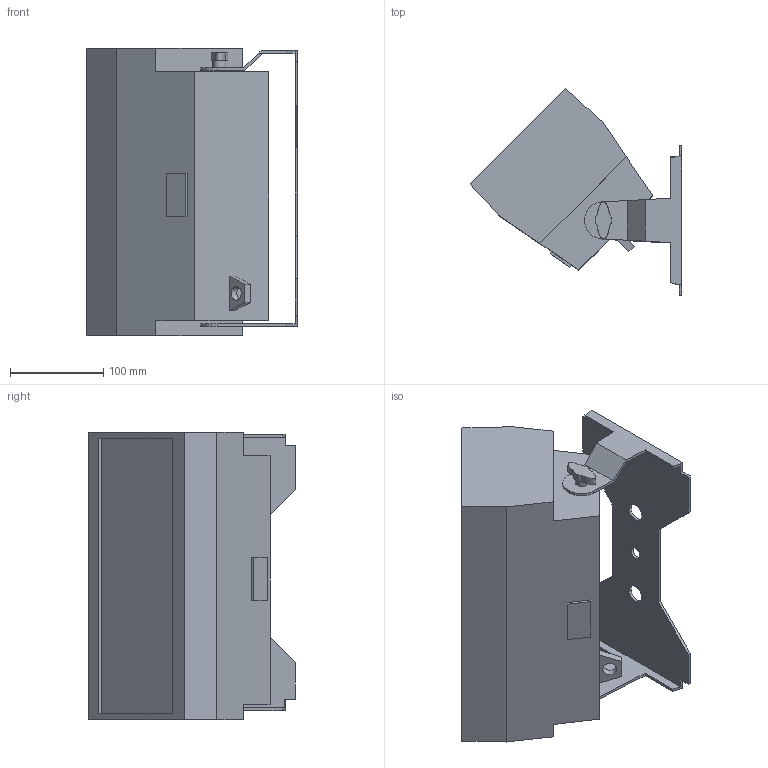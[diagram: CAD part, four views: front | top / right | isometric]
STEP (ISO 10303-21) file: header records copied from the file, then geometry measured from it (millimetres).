
FILE_DESCRIPTION(/* description */ (''),/* implementation_level */ '2;1');
FILE_NAME(/* name */ 'COLORado Solo Bar 1_45_3D.stp',/* time_stamp */ '2024-04-30T10:29:54-04:00',/* author */ ('dgooch'),/* organization */ (''),/* preprocessor_version */ 'ST-DEVELOPER v20',/* originating_system */ 'Autodesk Inventor 2024',/* authorisation */ '');
FILE_SCHEMA (('AUTOMOTIVE_DESIGN { 1 0 10303 214 3 1 1 }'));
Length unit declared in the file: millimetre
Products named in the file (3): COLORado Solo Bar 1_0; Component2; Component3
Assembly tree (2 placements, depth 2):
  COLORado Solo Bar 1_0
    Component2
    Component3
Bounding box: 226.63 x 221.23 x 308.1 mm (x, y, z)
Volume: 5912905.4 mm3; surface area: 308865.9 mm2
Topology: 2 solids, 2 shells, 99 faces, 252 edges, 166 vertices
Faces by surface type: plane 82, cylinder 13, cone 2, bspline 2
Full cylindrical faces by diameter (mm): 13 x1, 14 x3, 15 x1, 19 x2
Entity records: 4671 total; most frequent: CARTESIAN_POINT 2126, ORIENTED_EDGE 504, DIRECTION 478, EDGE_CURVE 252, LINE 214, VECTOR 214, VERTEX_POINT 166, AXIS2_PLACEMENT_3D 132
